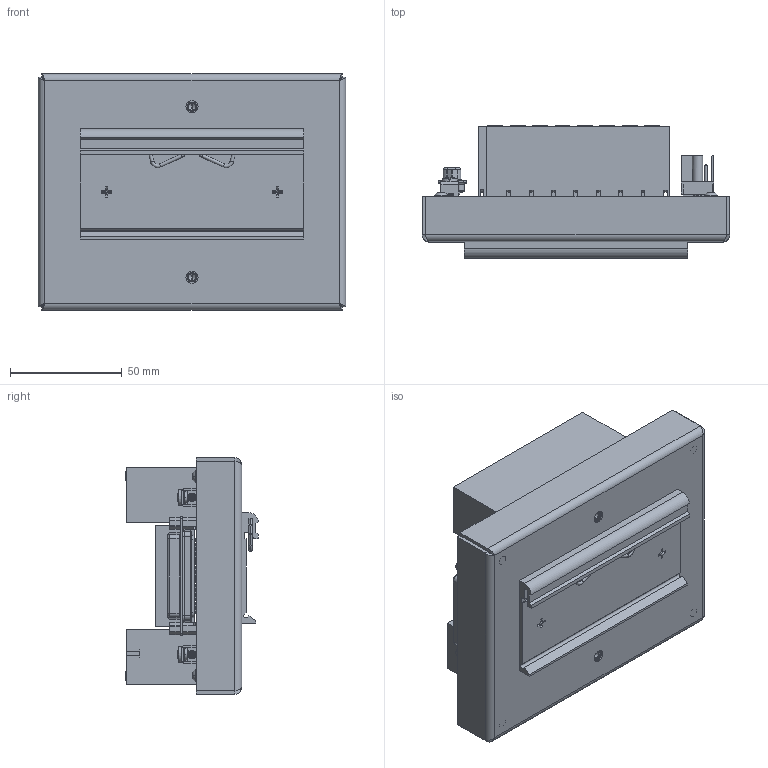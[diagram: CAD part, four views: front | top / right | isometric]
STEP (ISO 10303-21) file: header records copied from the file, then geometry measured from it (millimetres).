
FILE_DESCRIPTION((''),'2;1');
FILE_NAME('CU_TB-12396-12397','2018-08-14T',('dkendric'),(''),'CREO PARAMETRIC BY PTC INC, 2017480','CREO PARAMETRIC BY PTC INC, 2017480','');
FILE_SCHEMA(('AUTOMOTIVE_DESIGN { 1 0 10303 214 1 1 1 1 }'));
Products named in the file (1): CU_TB-12396-12397
Bounding box: 137.36 x 59.38 x 105.61 mm (x, y, z)
Volume: 206359.5 mm3; surface area: 119101.1 mm2
Topology: 2 solids, 7 shells, 4357 faces, 11545 edges, 7493 vertices
Faces by surface type: plane 2956, cylinder 997, cone 254, torus 54, bspline 52, sphere 44
Entity records: 175661 total; most frequent: CARTESIAN_POINT 49745, ORIENTED_EDGE 22954, DIRECTION 21496, EDGE_CURVE 11477, VECTOR 8780, LINE 8780, VERTEX_POINT 7531, AXIS2_PLACEMENT_3D 6358
